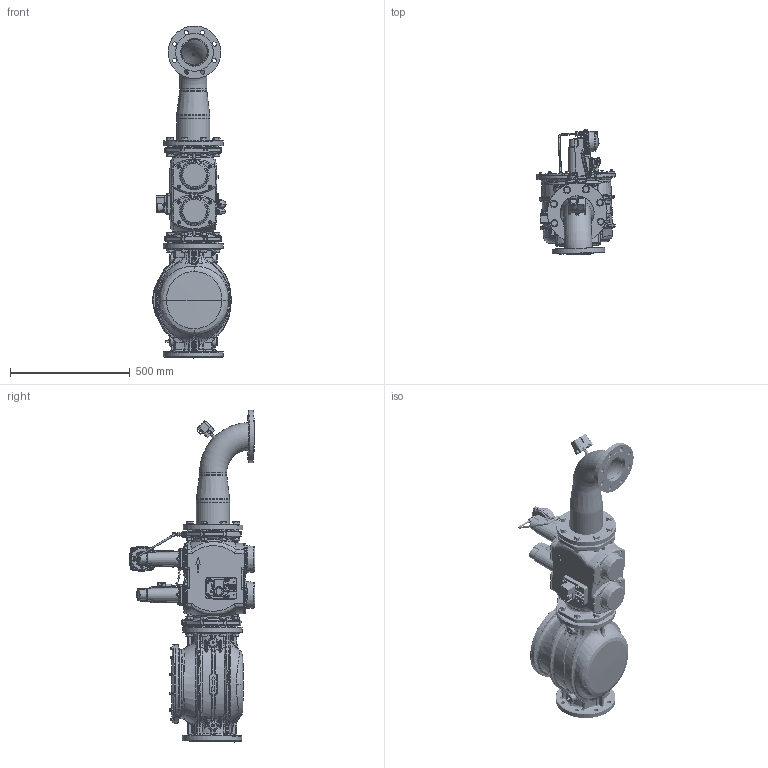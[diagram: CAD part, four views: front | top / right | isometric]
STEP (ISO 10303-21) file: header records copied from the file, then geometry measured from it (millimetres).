
FILE_DESCRIPTION (( 'STEP AP214' ), '1' );
FILE_NAME ('19990608.STEP', '2025-02-20T11:32:36', ( '' ), ( '' ), 'SwSTEP 2.0', 'SolidWorks 2021', '' );
FILE_SCHEMA (( 'AUTOMOTIVE_DESIGN' ));
Length unit declared in the file: millimetre
Products named in the file (1): 19990608
Bounding box: 328.25 x 526.86 x 1389.18 mm (x, y, z)
Volume: 30380700.3 mm3; surface area: 3069419.7 mm2
Topology: 126 solids, 172 shells, 8388 faces, 20228 edges, 12345 vertices
Faces by surface type: plane 2502, bspline 2320, cylinder 2310, cone 886, torus 296, sphere 74
Full cylindrical faces by diameter (mm): 1.5 x2, 2 x2, 3 x1, 3.1 x1, 3.4 x1, 3.838 x3, 4 x5, 4.2 x1, 4.3 x12, 4.351 x8, 4.5 x1, 4.8 x1, 5 x10, 5.795 x8, 5.9 x1, 6 x10, 6.2 x1, 6.4 x4, 6.5 x1, 6.8 x12, 6.985 x16, 7 x4, 7.794 x16, 8 x35, 8.3 x16, 8.5 x14, 8.8 x1, 9 x12, 9.5 x1, 9.73 x1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
Entity records: 539473 total; most frequent: CARTESIAN_POINT 283191, ORIENTED_EDGE 36704, DIRECTION 26425, EDGE_CURVE 18352, VERTEX_POINT 11782, EDGE_LOOP 10348, AXIS2_PLACEMENT_3D 10226, FACE_OUTER_BOUND 9223
